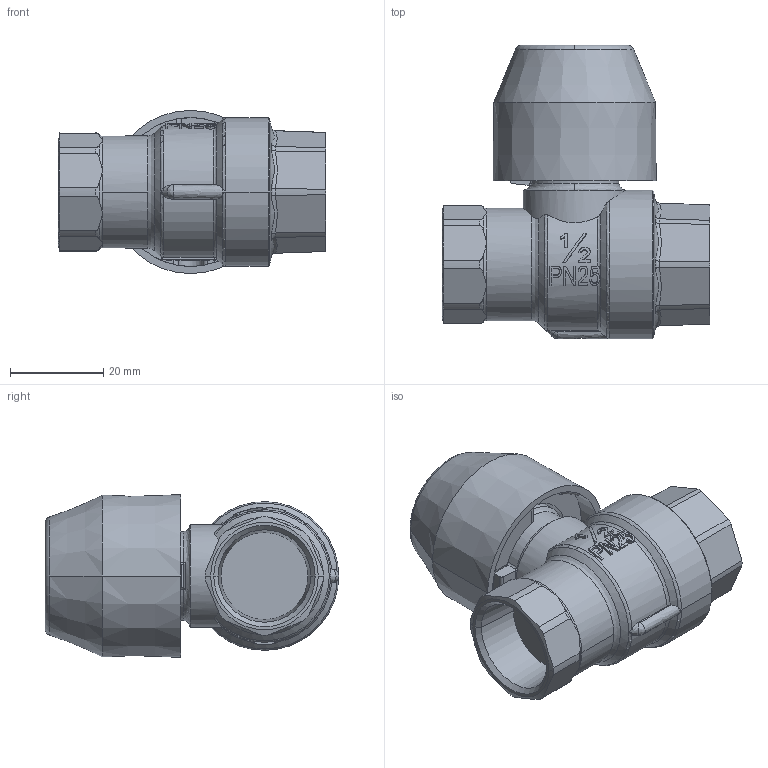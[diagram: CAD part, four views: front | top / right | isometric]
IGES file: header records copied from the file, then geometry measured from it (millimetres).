
Global section: file name: No Iges File Name specified; native system: AutoDesk Inventor R12.0; preprocessor: AutoDesk Inventor Iges Exporter R12.0; date: 20110214.144317; units: millimetre
Bounding box: 57.2 x 62.8 x 34.9 mm (x, y, z)
Volume: 46939.5 mm3; surface area: 17450.7 mm2
Topology: 1 solids, 1 shells, 526 faces, 1420 edges, 908 vertices
Faces by surface type: plane 195, bspline 138, revolution 64, cylinder 61, cone 45, torus 23
Full cylindrical faces by diameter (mm): 22 x1
